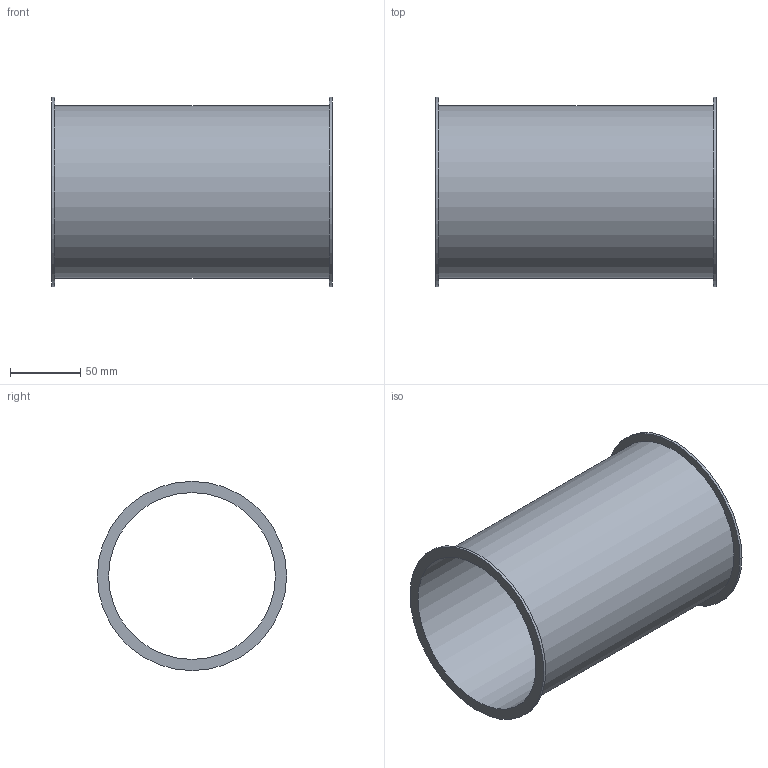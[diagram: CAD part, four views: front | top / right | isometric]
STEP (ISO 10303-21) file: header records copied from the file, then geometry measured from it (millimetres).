
FILE_DESCRIPTION((''),'2;1');
FILE_NAME('U:\Wolfgang\Marcel-3D\fertig\Kapitel 1\1221004.stp','2010-05-31T11:01:15',('TK2'),(''),'Autodesk Inventor 2010','Autodesk Inventor 2010','');
FILE_SCHEMA(('AUTOMOTIVE_DESIGN { 1 0 10303 214 1 1 1 1 }'));
Length unit declared in the file: millimetre
Products named in the file (1): 1221004
Bounding box: 200 x 135 x 135 mm (x, y, z)
Volume: 161779.5 mm3; surface area: 163450.8 mm2
Topology: 1 solids, 1 shells, 8 faces, 12 edges, 8 vertices
Faces by surface type: cylinder 4, plane 4
Full cylindrical faces by diameter (mm): 119 x1, 123 x1, 135 x2
Entity records: 194 total; most frequent: DIRECTION 34, CARTESIAN_POINT 25, AXIS2_PLACEMENT_3D 17, ORIENTED_EDGE 16, EDGE_LOOP 16, VERTEX_POINT 8, CIRCLE 8, EDGE_CURVE 8
